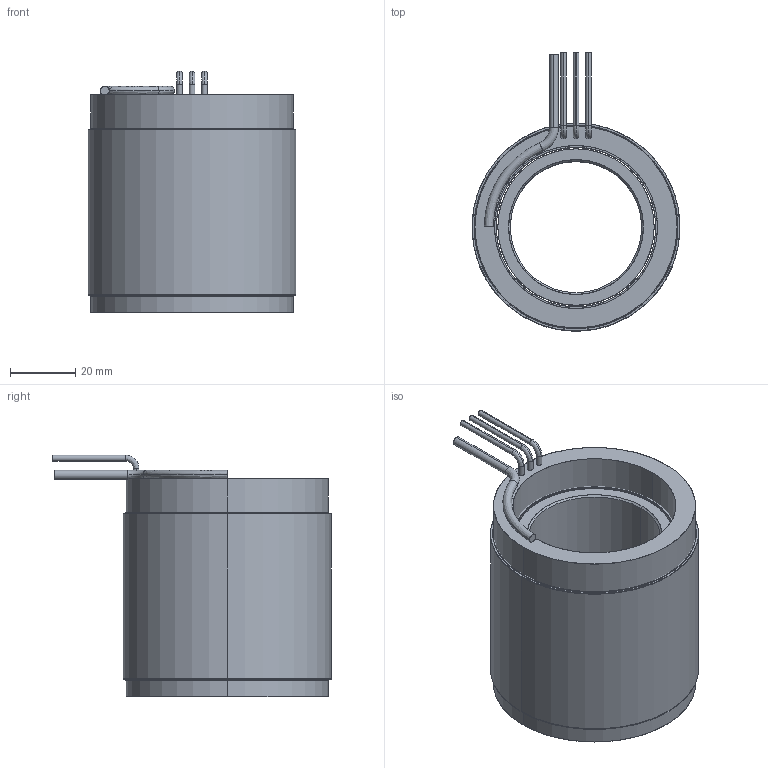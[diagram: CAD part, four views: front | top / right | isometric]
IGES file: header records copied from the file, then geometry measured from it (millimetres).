
Start section: SolidWorks IGES file using analytic representation for surfaces
Global section: file name: \\fs01.aveox.local\user documents\eng\My Documents\6100391-XX UAV STANDARD STATOR AND ROTOR SET 2.5OD 27S24P\6100391-06.IGS; native system: SolidWorks 2016; preprocessor: SolidWorks 2016; author: eng; date: 201214.184309; units: inch
Bounding box: 63.5 x 84.96 x 73.79 mm (x, y, z)
Surface area: 72030.3 mm2 (no closed solid volume)
Topology: 0 solids, 0 shells, 75 faces, 2288 edges, 2288 vertices
Faces by surface type: revolution 46, bspline 29
